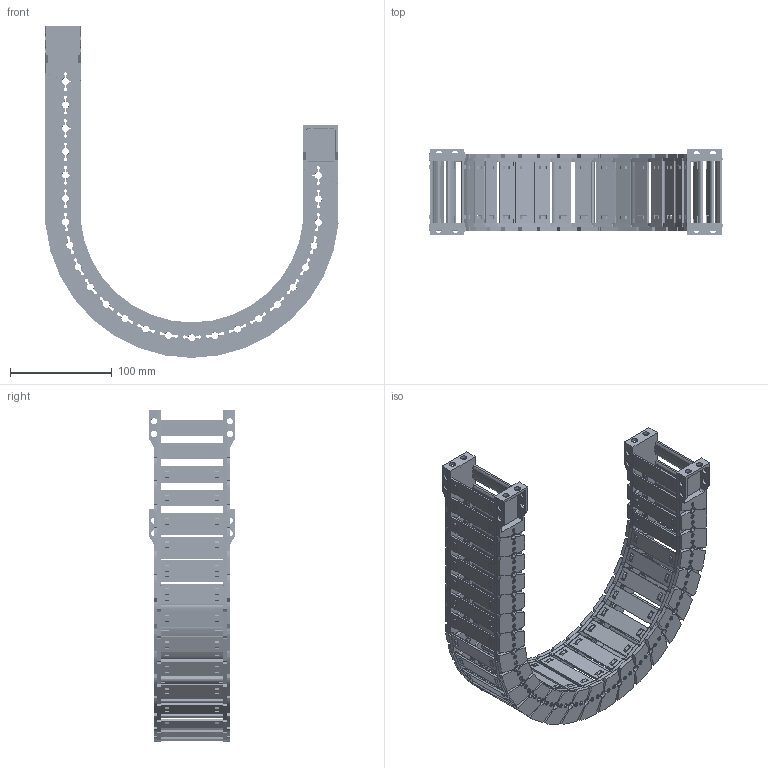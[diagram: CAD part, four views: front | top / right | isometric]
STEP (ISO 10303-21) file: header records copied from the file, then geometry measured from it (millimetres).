
FILE_DESCRIPTION(/* description */ (''),/* implementation_level */ '2;1');
FILE_NAME(/* name */ 'JY28-60-R125.stp',/* time_stamp */ '2026-06-03T15:40:57+08:00',/* author */ (''),/* organization */ (''),/* preprocessor_version */ 'ST-DEVELOPER v19.4',/* originating_system */ 'SIEMENS PLM Software NX2306.5001',/* authorisation */ '');
FILE_SCHEMA (('AP203_CONFIGURATION_CONTROLLED_3D_DESIGN_OF_MECHANICAL_PARTS_AND_ASSEMBLIES_MIM_LF { 1 0 10303 403 2 1 2}'));
Products named in the file (1): 简化图纸_objects
Bounding box: 287.57 x 84.5 x 325.62 mm (x, y, z)
Volume: 444029.5 mm3; surface area: 322958.1 mm2
Topology: 98 solids, 98 shells, 8138 faces, 23150 edges, 15130 vertices
Faces by surface type: plane 5330, cone 1480, cylinder 1278, bspline 48, torus 2
Full cylindrical faces by diameter (mm): 6 x24
Entity records: 275371 total; most frequent: CARTESIAN_POINT 61217, ORIENTED_EDGE 46208, DIRECTION 43382, EDGE_CURVE 23104, LINE 15292, VECTOR 15292, VERTEX_POINT 15108, AXIS2_PLACEMENT_3D 14045
